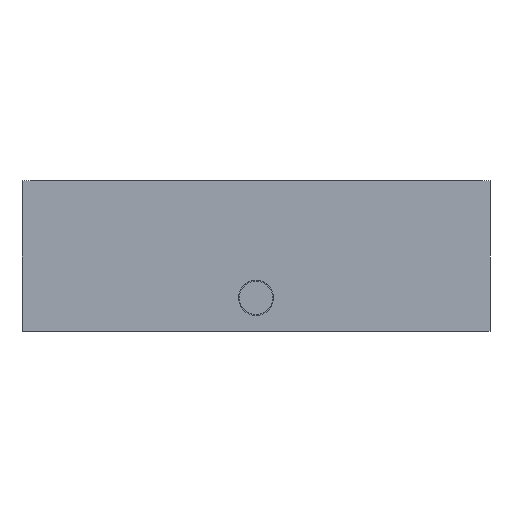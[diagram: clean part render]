
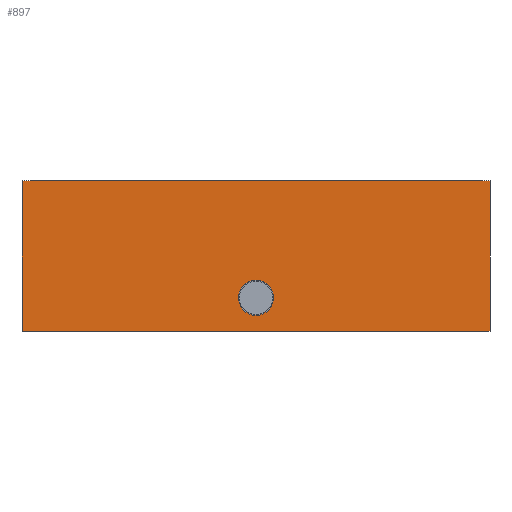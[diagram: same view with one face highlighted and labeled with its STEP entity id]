
A CAD part, front view. The second image highlights one B-rep face of the part: STEP entity #897.
In plain terms, the highlighted planar face has unit normal (0, -1, 0).
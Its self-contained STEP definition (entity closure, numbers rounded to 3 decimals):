
#20 = VECTOR ( 'NONE', #1893, 1000. ) ;
#21 = CIRCLE ( 'NONE', #24, 2.1 ) ;
#24 = AXIS2_PLACEMENT_3D ( 'NONE', #1897, #1898, #1899 ) ;
#25 = VECTOR ( 'NONE', #1903, 1000. ) ;
#30 = VECTOR ( 'NONE', #1915, 1000. ) ;
#897 = ADVANCED_FACE ( 'NONE', ( #14384, #14380 ), #14386, .F. ) ;
#958 = EDGE_CURVE ( 'NONE', #10628, #10384, #14666, .T. ) ;
#1888 = CARTESIAN_POINT ( 'NONE',  ( 15.574, -48.539, 20.411 ) ) ;
#1893 = DIRECTION ( 'NONE',  ( 0., 0., -1. ) ) ;
#1897 = CARTESIAN_POINT ( 'NONE',  ( -12.426, -48.539, 15.411 ) ) ;
#1898 = DIRECTION ( 'NONE',  ( 0., -1., 0. ) ) ;
#1899 = DIRECTION ( 'NONE',  ( 0., 0., -1. ) ) ;
#1901 = LINE ( 'NONE', #1902, #25 ) ;
#1902 = CARTESIAN_POINT ( 'NONE',  ( -12.426, -48.539, 29.411 ) ) ;
#1903 = DIRECTION ( 'NONE',  ( 1., 0., 0. ) ) ;
#1907 = LINE ( 'NONE', #1908, #30 ) ;
#1908 = CARTESIAN_POINT ( 'NONE',  ( -12.426, -48.539, 11.411 ) ) ;
#1915 = DIRECTION ( 'NONE',  ( -1., 0., 0. ) ) ;
#4283 = CARTESIAN_POINT ( 'NONE',  ( -12.426, -48.539, 15.411 ) ) ;
#4284 = DIRECTION ( 'NONE',  ( 0., -1., 0. ) ) ;
#4285 = DIRECTION ( 'NONE',  ( 0., 0., -1. ) ) ;
#5754 = AXIS2_PLACEMENT_3D ( 'NONE', #14383, #14378, #14388 ) ;
#5827 = VECTOR ( 'NONE', #14669, 1000. ) ;
#6457 = VERTEX_POINT ( 'NONE', #18732 ) ;
#6469 = VERTEX_POINT ( 'NONE', #18736 ) ;
#9556 = EDGE_CURVE ( 'NONE', #9900, #10359, #20511, .T. ) ;
#9558 = EDGE_CURVE ( 'NONE', #6469, #6457, #21, .T. ) ;
#9560 = EDGE_CURVE ( 'NONE', #10384, #9900, #1901, .T. ) ;
#9564 = EDGE_CURVE ( 'NONE', #10359, #10628, #1907, .T. ) ;
#9900 = VERTEX_POINT ( 'NONE', #17274 ) ;
#10359 = VERTEX_POINT ( 'NONE', #18129 ) ;
#10384 = VERTEX_POINT ( 'NONE', #18172 ) ;
#10628 = VERTEX_POINT ( 'NONE', #13199 ) ;
#11938 = CIRCLE ( 'NONE', #11941, 2.1 ) ;
#11941 = AXIS2_PLACEMENT_3D ( 'NONE', #4283, #4284, #4285 ) ;
#13199 = CARTESIAN_POINT ( 'NONE',  ( -40.426, -48.539, 11.411 ) ) ;
#14378 = DIRECTION ( 'NONE',  ( 0., 1., 0. ) ) ;
#14380 = FACE_OUTER_BOUND ( 'NONE', #21014, .T. ) ;
#14383 = CARTESIAN_POINT ( 'NONE',  ( 15.574, -48.539, 29.411 ) ) ;
#14384 = FACE_BOUND ( 'NONE', #20702, .T. ) ;
#14386 = PLANE ( 'NONE',  #5754 ) ;
#14388 = DIRECTION ( 'NONE',  ( 0., 0., -1. ) ) ;
#14666 = LINE ( 'NONE', #14668, #5827 ) ;
#14668 = CARTESIAN_POINT ( 'NONE',  ( -40.426, -48.539, 20.411 ) ) ;
#14669 = DIRECTION ( 'NONE',  ( 0., 0., 1. ) ) ;
#17274 = CARTESIAN_POINT ( 'NONE',  ( 15.574, -48.539, 29.411 ) ) ;
#18129 = CARTESIAN_POINT ( 'NONE',  ( 15.574, -48.539, 11.411 ) ) ;
#18172 = CARTESIAN_POINT ( 'NONE',  ( -40.426, -48.539, 29.411 ) ) ;
#18732 = CARTESIAN_POINT ( 'NONE',  ( -12.426, -48.539, 17.511 ) ) ;
#18736 = CARTESIAN_POINT ( 'NONE',  ( -12.426, -48.539, 13.311 ) ) ;
#20511 = LINE ( 'NONE', #1888, #20 ) ;
#20536 = ORIENTED_EDGE ( 'NONE', *, *, #22314, .F. ) ;
#20595 = ORIENTED_EDGE ( 'NONE', *, *, #9556, .F. ) ;
#20702 = EDGE_LOOP ( 'NONE', ( #20745, #20536 ) ) ;
#20745 = ORIENTED_EDGE ( 'NONE', *, *, #9558, .F. ) ;
#20799 = ORIENTED_EDGE ( 'NONE', *, *, #958, .F. ) ;
#20843 = ORIENTED_EDGE ( 'NONE', *, *, #9560, .F. ) ;
#21014 = EDGE_LOOP ( 'NONE', ( #20595, #20843, #20799, #21042 ) ) ;
#21042 = ORIENTED_EDGE ( 'NONE', *, *, #9564, .F. ) ;
#22314 = EDGE_CURVE ( 'NONE', #6457, #6469, #11938, .T. ) ;
